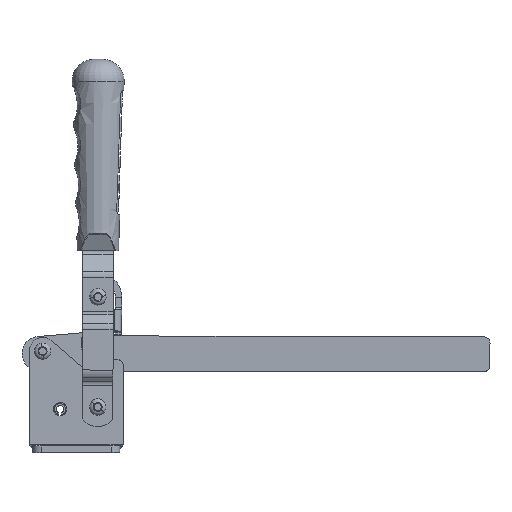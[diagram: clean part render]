
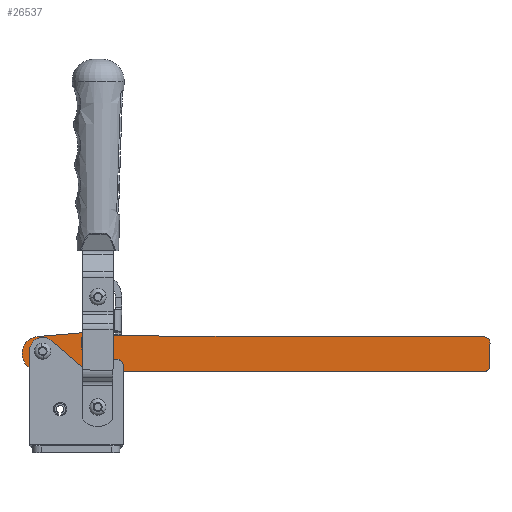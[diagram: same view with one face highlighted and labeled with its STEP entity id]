
A CAD part, top view. The second image highlights one B-rep face of the part: STEP entity #26537.
In plain terms, the highlighted planar face has unit normal (0, 0, 1) as drawn and (0, 0, -1) by its records, which use the part's own axes.
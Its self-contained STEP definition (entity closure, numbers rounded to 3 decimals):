
#403 = EDGE_CURVE ( 'NONE', #3375, #3409, #4710, .T. ) ;
#670 = EDGE_LOOP ( 'NONE', ( #2404, #19498, #14209, #8018, #13731, #2054, #6651, #4588, #10643, #2483, #25069, #1488 ) ) ;
#938 = DIRECTION ( 'NONE',  ( 0., 0., 1. ) ) ;
#1013 = CIRCLE ( 'NONE', #7958, 4. ) ;
#1089 = EDGE_CURVE ( 'NONE', #6675, #14762, #21821, .T. ) ;
#1330 = VECTOR ( 'NONE', #13907, 1000. ) ;
#1426 = CARTESIAN_POINT ( 'NONE',  ( 4373.672, 1882.417, -6. ) ) ;
#1488 = ORIENTED_EDGE ( 'NONE', *, *, #10553, .F. ) ;
#1769 = FACE_OUTER_BOUND ( 'NONE', #670, .T. ) ;
#1901 = VERTEX_POINT ( 'NONE', #5911 ) ;
#2054 = ORIENTED_EDGE ( 'NONE', *, *, #23359, .F. ) ;
#2098 = CARTESIAN_POINT ( 'NONE',  ( 4373.672, 1897.382, -6. ) ) ;
#2404 = ORIENTED_EDGE ( 'NONE', *, *, #23199, .F. ) ;
#2483 = ORIENTED_EDGE ( 'NONE', *, *, #20729, .F. ) ;
#2488 = VERTEX_POINT ( 'NONE', #14269 ) ;
#3069 = ORIENTED_EDGE ( 'NONE', *, *, #403, .T. ) ;
#3128 = DIRECTION ( 'NONE',  ( 1., 0., 0. ) ) ;
#3168 = EDGE_CURVE ( 'NONE', #8735, #13478, #25647, .T. ) ;
#3375 = VERTEX_POINT ( 'NONE', #21334 ) ;
#3408 = CARTESIAN_POINT ( 'NONE',  ( 4341.933, 1882.179, -6. ) ) ;
#3409 = VERTEX_POINT ( 'NONE', #23784 ) ;
#3590 = EDGE_CURVE ( 'NONE', #18398, #2488, #11069, .T. ) ;
#3680 = VERTEX_POINT ( 'NONE', #22932 ) ;
#3700 = VERTEX_POINT ( 'NONE', #14871 ) ;
#3891 = DIRECTION ( 'NONE',  ( 1., 0., 0. ) ) ;
#4276 = CARTESIAN_POINT ( 'NONE',  ( 4373.41, 1879.429, -6. ) ) ;
#4588 = ORIENTED_EDGE ( 'NONE', *, *, #23881, .F. ) ;
#4710 = CIRCLE ( 'NONE', #8176, 4. ) ;
#4754 = DIRECTION ( 'NONE',  ( 0., 1., 0. ) ) ;
#4928 = CARTESIAN_POINT ( 'NONE',  ( 4378.458, 1897.999, -6. ) ) ;
#4985 = LINE ( 'NONE', #17096, #22591 ) ;
#5140 = CARTESIAN_POINT ( 'NONE',  ( 4344.357, 1888.899, -6. ) ) ;
#5553 = FACE_BOUND ( 'NONE', #20510, .T. ) ;
#5589 = EDGE_LOOP ( 'NONE', ( #7268, #5879 ) ) ;
#5712 = AXIS2_PLACEMENT_3D ( 'NONE', #2098, #16781, #24982 ) ;
#5849 = AXIS2_PLACEMENT_3D ( 'NONE', #10117, #26376, #18272 ) ;
#5879 = ORIENTED_EDGE ( 'NONE', *, *, #12850, .T. ) ;
#5911 = CARTESIAN_POINT ( 'NONE',  ( 4373.357, 1888.899, -6. ) ) ;
#6651 = ORIENTED_EDGE ( 'NONE', *, *, #3168, .F. ) ;
#6675 = VERTEX_POINT ( 'NONE', #23656 ) ;
#6734 = VERTEX_POINT ( 'NONE', #17600 ) ;
#6781 = EDGE_CURVE ( 'NONE', #19403, #6675, #13314, .T. ) ;
#7268 = ORIENTED_EDGE ( 'NONE', *, *, #19374, .T. ) ;
#7322 = AXIS2_PLACEMENT_3D ( 'NONE', #11707, #19727, #3891 ) ;
#7373 = AXIS2_PLACEMENT_3D ( 'NONE', #1426, #26065, #26349 ) ;
#7936 = DIRECTION ( 'NONE',  ( 1., 0., 0. ) ) ;
#7958 = AXIS2_PLACEMENT_3D ( 'NONE', #13432, #19704, #17986 ) ;
#8018 = ORIENTED_EDGE ( 'NONE', *, *, #6781, .F. ) ;
#8176 = AXIS2_PLACEMENT_3D ( 'NONE', #11318, #19084, #9302 ) ;
#8210 = CIRCLE ( 'NONE', #11639, 4. ) ;
#8257 = VERTEX_POINT ( 'NONE', #15885 ) ;
#8682 = VECTOR ( 'NONE', #11641, 1000. ) ;
#8735 = VERTEX_POINT ( 'NONE', #4928 ) ;
#8931 = DIRECTION ( 'NONE',  ( 1., 0., 0. ) ) ;
#9286 = CIRCLE ( 'NONE', #5849, 4. ) ;
#9302 = DIRECTION ( 'NONE',  ( 1., 0., 0. ) ) ;
#9463 = LINE ( 'NONE', #9877, #1330 ) ;
#9487 = AXIS2_PLACEMENT_3D ( 'NONE', #21518, #938, #3128 ) ;
#9877 = CARTESIAN_POINT ( 'NONE',  ( 4500.006, 1897.999, -6. ) ) ;
#10038 = CIRCLE ( 'NONE', #5712, 3. ) ;
#10117 = CARTESIAN_POINT ( 'NONE',  ( 4369.357, 1888.899, -6. ) ) ;
#10440 = ORIENTED_EDGE ( 'NONE', *, *, #26395, .T. ) ;
#10553 = EDGE_CURVE ( 'NONE', #3700, #3680, #13704, .T. ) ;
#10643 = ORIENTED_EDGE ( 'NONE', *, *, #3590, .F. ) ;
#11069 = CIRCLE ( 'NONE', #26088, 3. ) ;
#11208 = CIRCLE ( 'NONE', #9487, 3. ) ;
#11318 = CARTESIAN_POINT ( 'NONE',  ( 4344.357, 1888.899, -6. ) ) ;
#11348 = DIRECTION ( 'NONE',  ( 0., 0., 1. ) ) ;
#11639 = AXIS2_PLACEMENT_3D ( 'NONE', #5140, #11348, #8931 ) ;
#11641 = DIRECTION ( 'NONE',  ( 0.996, -0.087, 0. ) ) ;
#11707 = CARTESIAN_POINT ( 'NONE',  ( 4342.607, 1889.899, -6. ) ) ;
#11894 = DIRECTION ( 'NONE',  ( 0., 0., 1. ) ) ;
#12272 = CARTESIAN_POINT ( 'NONE',  ( 4550.006, 1894.999, -6. ) ) ;
#12640 = CARTESIAN_POINT ( 'NONE',  ( 4341.933, 1897.62, -6. ) ) ;
#12850 = EDGE_CURVE ( 'NONE', #8257, #1901, #1013, .T. ) ;
#13314 = CIRCLE ( 'NONE', #7322, 7.75 ) ;
#13432 = CARTESIAN_POINT ( 'NONE',  ( 4369.357, 1888.899, -6. ) ) ;
#13478 = VERTEX_POINT ( 'NONE', #17634 ) ;
#13704 = LINE ( 'NONE', #17864, #14875 ) ;
#13731 = ORIENTED_EDGE ( 'NONE', *, *, #25128, .F. ) ;
#13907 = DIRECTION ( 'NONE',  ( -1., 0., 0. ) ) ;
#14189 = CARTESIAN_POINT ( 'NONE',  ( 4376.065, 1880.608, -6. ) ) ;
#14209 = ORIENTED_EDGE ( 'NONE', *, *, #1089, .F. ) ;
#14269 = CARTESIAN_POINT ( 'NONE',  ( 4547.006, 1897.999, -6. ) ) ;
#14690 = AXIS2_PLACEMENT_3D ( 'NONE', #15847, #17992, #7936 ) ;
#14762 = VERTEX_POINT ( 'NONE', #4276 ) ;
#14871 = CARTESIAN_POINT ( 'NONE',  ( 4378.458, 1881.799, -6. ) ) ;
#14875 = VECTOR ( 'NONE', #17455, 1000. ) ;
#15264 = DIRECTION ( 'NONE',  ( 1., 0., 0. ) ) ;
#15542 = CIRCLE ( 'NONE', #14690, 3. ) ;
#15847 = CARTESIAN_POINT ( 'NONE',  ( 4378.458, 1878.799, -6. ) ) ;
#15885 = CARTESIAN_POINT ( 'NONE',  ( 4365.357, 1888.899, -6. ) ) ;
#16781 = DIRECTION ( 'NONE',  ( 0., 0., 1. ) ) ;
#17096 = CARTESIAN_POINT ( 'NONE',  ( 4373.41, 1900.37, -6. ) ) ;
#17146 = DIRECTION ( 'NONE',  ( 0., 0., -1. ) ) ;
#17277 = CARTESIAN_POINT ( 'NONE',  ( 4378.458, 1900.999, -6. ) ) ;
#17455 = DIRECTION ( 'NONE',  ( 1., 0., 0. ) ) ;
#17600 = CARTESIAN_POINT ( 'NONE',  ( 4550.006, 1884.799, -6. ) ) ;
#17634 = CARTESIAN_POINT ( 'NONE',  ( 4376.065, 1899.191, -6. ) ) ;
#17864 = CARTESIAN_POINT ( 'NONE',  ( 4378.458, 1881.799, -6. ) ) ;
#17897 = CARTESIAN_POINT ( 'NONE',  ( 4547.006, 1894.999, -6. ) ) ;
#17986 = DIRECTION ( 'NONE',  ( 1., 0., 0. ) ) ;
#17992 = DIRECTION ( 'NONE',  ( 0., 0., -1. ) ) ;
#17998 = VERTEX_POINT ( 'NONE', #14189 ) ;
#18091 = AXIS2_PLACEMENT_3D ( 'NONE', #18309, #11894, #19769 ) ;
#18272 = DIRECTION ( 'NONE',  ( 1., 0., 0. ) ) ;
#18309 = CARTESIAN_POINT ( 'NONE',  ( 4378.458, 1878.799, -6. ) ) ;
#18398 = VERTEX_POINT ( 'NONE', #12272 ) ;
#18928 = CIRCLE ( 'NONE', #7373, 3. ) ;
#19084 = DIRECTION ( 'NONE',  ( 0., 0., 1. ) ) ;
#19349 = DIRECTION ( 'NONE',  ( -0.996, -0.087, 0. ) ) ;
#19374 = EDGE_CURVE ( 'NONE', #1901, #8257, #9286, .T. ) ;
#19403 = VERTEX_POINT ( 'NONE', #12640 ) ;
#19498 = ORIENTED_EDGE ( 'NONE', *, *, #23099, .F. ) ;
#19704 = DIRECTION ( 'NONE',  ( 0., 0., 1. ) ) ;
#19727 = DIRECTION ( 'NONE',  ( 0., 0., 1. ) ) ;
#19769 = DIRECTION ( 'NONE',  ( 1., 0., 0. ) ) ;
#20111 = VERTEX_POINT ( 'NONE', #25458 ) ;
#20186 = PLANE ( 'NONE',  #18091 ) ;
#20301 = DIRECTION ( 'NONE',  ( 1., 0., 0. ) ) ;
#20510 = EDGE_LOOP ( 'NONE', ( #10440, #3069 ) ) ;
#20729 = EDGE_CURVE ( 'NONE', #6734, #18398, #23576, .T. ) ;
#21334 = CARTESIAN_POINT ( 'NONE',  ( 4340.357, 1888.899, -6. ) ) ;
#21518 = CARTESIAN_POINT ( 'NONE',  ( 4547.006, 1884.799, -6. ) ) ;
#21821 = LINE ( 'NONE', #3408, #8682 ) ;
#22591 = VECTOR ( 'NONE', #19349, 1000. ) ;
#22932 = CARTESIAN_POINT ( 'NONE',  ( 4547.006, 1881.799, -6. ) ) ;
#23099 = EDGE_CURVE ( 'NONE', #14762, #17998, #18928, .T. ) ;
#23199 = EDGE_CURVE ( 'NONE', #17998, #3700, #15542, .T. ) ;
#23359 = EDGE_CURVE ( 'NONE', #13478, #20111, #10038, .T. ) ;
#23576 = LINE ( 'NONE', #25086, #25831 ) ;
#23656 = CARTESIAN_POINT ( 'NONE',  ( 4341.933, 1882.179, -6. ) ) ;
#23784 = CARTESIAN_POINT ( 'NONE',  ( 4348.357, 1888.899, -6. ) ) ;
#23881 = EDGE_CURVE ( 'NONE', #2488, #8735, #9463, .T. ) ;
#24394 = AXIS2_PLACEMENT_3D ( 'NONE', #17277, #17146, #15264 ) ;
#24982 = DIRECTION ( 'NONE',  ( 1., 0., 0. ) ) ;
#25069 = ORIENTED_EDGE ( 'NONE', *, *, #26373, .F. ) ;
#25086 = CARTESIAN_POINT ( 'NONE',  ( 4550.006, 1894.999, -6. ) ) ;
#25128 = EDGE_CURVE ( 'NONE', #20111, #19403, #4985, .T. ) ;
#25458 = CARTESIAN_POINT ( 'NONE',  ( 4373.41, 1900.37, -6. ) ) ;
#25647 = CIRCLE ( 'NONE', #24394, 3. ) ;
#25831 = VECTOR ( 'NONE', #4754, 1000. ) ;
#26065 = DIRECTION ( 'NONE',  ( 0., 0., 1. ) ) ;
#26088 = AXIS2_PLACEMENT_3D ( 'NONE', #17897, #26103, #20301 ) ;
#26103 = DIRECTION ( 'NONE',  ( 0., 0., 1. ) ) ;
#26266 = FACE_BOUND ( 'NONE', #5589, .T. ) ;
#26349 = DIRECTION ( 'NONE',  ( 1., 0., 0. ) ) ;
#26373 = EDGE_CURVE ( 'NONE', #3680, #6734, #11208, .T. ) ;
#26376 = DIRECTION ( 'NONE',  ( 0., 0., 1. ) ) ;
#26395 = EDGE_CURVE ( 'NONE', #3409, #3375, #8210, .T. ) ;
#26537 = ADVANCED_FACE ( 'NONE', ( #26266, #5553, #1769 ), #20186, .F. ) ;
